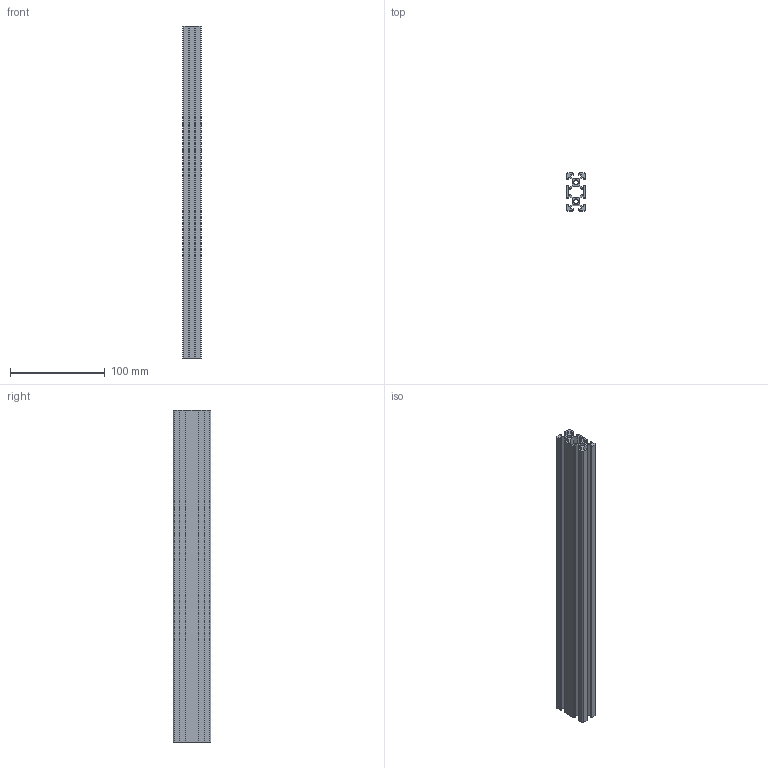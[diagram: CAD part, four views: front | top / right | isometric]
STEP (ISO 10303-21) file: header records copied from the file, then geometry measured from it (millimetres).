
FILE_DESCRIPTION(/* description */ (''),/* implementation_level */ '2;1');
FILE_NAME(/* name */ 'C:/Users/User/Desktop/2040 Alum 420 v5.step',/* time_stamp */ '2020-09-21T13:41:50+08:00',/* author */ (''),/* organization */ (''),/* preprocessor_version */ 'ST-DEVELOPER v18.1',/* originating_system */ 'Autodesk Translation Framework v9.3.0.1241',/* authorisation */ '');
FILE_SCHEMA (('AUTOMOTIVE_DESIGN { 1 0 10303 214 3 1 1 }'));
Length unit declared in the file: millimetre
Products named in the file (1): 2040 Alum 420
Bounding box: 20 x 40 x 350 mm (x, y, z)
Volume: 104548 mm3; surface area: 109171.4 mm2
Topology: 1 solids, 1 shells, 108 faces, 318 edges, 212 vertices
Faces by surface type: plane 102, cylinder 6
Full cylindrical faces by diameter (mm): 5 x2
Entity records: 3586 total; most frequent: CARTESIAN_POINT 639, ORIENTED_EDGE 636, DIRECTION 548, EDGE_CURVE 318, LINE 306, VECTOR 306, VERTEX_POINT 212, AXIS2_PLACEMENT_3D 121
